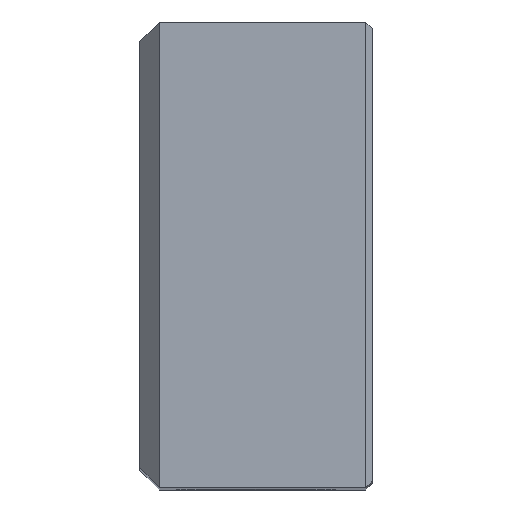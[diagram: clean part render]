
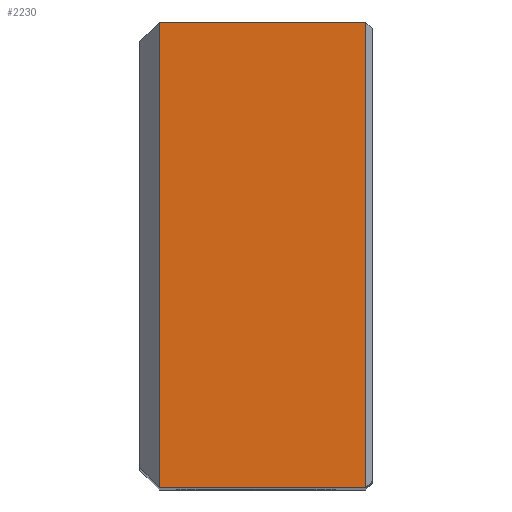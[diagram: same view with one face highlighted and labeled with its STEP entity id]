
A CAD part, top view. The second image highlights one B-rep face of the part: STEP entity #2230.
In plain terms, the highlighted planar face has unit normal (0, 0, 1).
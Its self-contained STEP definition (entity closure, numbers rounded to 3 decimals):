
#203=VERTEX_POINT(' ',#204);
#204=CARTESIAN_POINT('',(34.,-35.,0.));
#213=VERTEX_POINT(' ',#214);
#214=CARTESIAN_POINT('',(34.,35.,0.));
#247=VERTEX_POINT(' ',#248);
#248=CARTESIAN_POINT('',(3.,-35.,0.));
#253=VERTEX_POINT(' ',#254);
#254=CARTESIAN_POINT('',(3.,35.,0.));
#1031=LINE('',#1032,#1033);
#1032=CARTESIAN_POINT('',(34.,40.657,0.));
#1033=VECTOR('',#1034,1.);
#1034=DIRECTION('',(0.,-1.,0.));
#1035=EDGE_CURVE(' ',#213,#203,#1031,.T.);
#1201=LINE('',#1202,#1203);
#1202=CARTESIAN_POINT('',(35.12,-35.,0.));
#1203=VECTOR('',#1204,1.);
#1204=DIRECTION('',(-1.,0.,0.));
#1205=EDGE_CURVE(' ',#203,#247,#1201,.T.);
#1221=LINE('',#1222,#1223);
#1222=CARTESIAN_POINT('',(3.,-48.971,0.));
#1223=VECTOR('',#1224,1.);
#1224=DIRECTION('',(0.,1.,0.));
#1225=EDGE_CURVE(' ',#247,#253,#1221,.T.);
#1226=LINE('',#1227,#1228);
#1227=CARTESIAN_POINT('',(35.12,35.,0.));
#1228=VECTOR('',#1229,1.);
#1229=DIRECTION('',(-1.,0.,0.));
#1230=EDGE_CURVE(' ',#213,#253,#1226,.T.);
#2219=ORIENTED_EDGE('',*,*,#1225,.F.);
#2220=ORIENTED_EDGE('',*,*,#1205,.F.);
#2221=ORIENTED_EDGE('',*,*,#1035,.F.);
#2222=ORIENTED_EDGE('',*,*,#1230,.T.);
#2223=EDGE_LOOP('',(#2219,#2220,#2221,#2222));
#2224=FACE_OUTER_BOUND('',#2223,.T.);
#2225=PLANE('',#2226);
#2226=AXIS2_PLACEMENT_3D('',#2227,#2228,#2229);
#2227=CARTESIAN_POINT('',(0.,-35.,0.));
#2228=DIRECTION('',(0.,0.,1.));
#2229=DIRECTION('',(0.,1.,0.));
#2230=ADVANCED_FACE('',(#2224),#2225,.T.);
